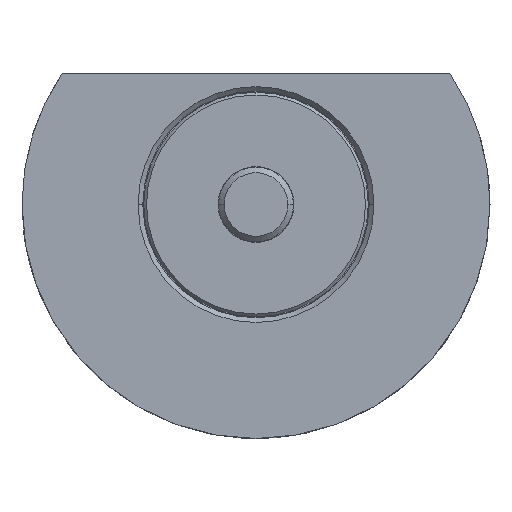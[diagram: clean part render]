
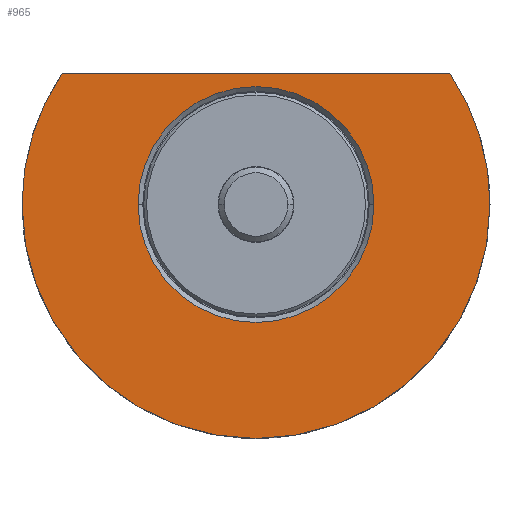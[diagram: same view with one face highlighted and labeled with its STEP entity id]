
A CAD part, front view. The second image highlights one B-rep face of the part: STEP entity #965.
In plain terms, the highlighted planar face has unit normal (0, -1, 0).
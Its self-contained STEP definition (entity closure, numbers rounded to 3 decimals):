
#11 = EDGE_CURVE ( 'NONE', #1319, #1957, #1905, .T. ) ;
#12 = VERTEX_POINT ( 'NONE', #2212 ) ;
#108 = DIRECTION ( 'NONE',  ( -1., 0., 0. ) ) ;
#114 = CARTESIAN_POINT ( 'NONE',  ( 20.712, -12., 14. ) ) ;
#157 = VERTEX_POINT ( 'NONE', #114 ) ;
#249 = CARTESIAN_POINT ( 'NONE',  ( 0., -12., 0. ) ) ;
#446 = DIRECTION ( 'NONE',  ( 0., -1., 0. ) ) ;
#493 = FACE_OUTER_BOUND ( 'NONE', #1355, .T. ) ;
#524 = DIRECTION ( 'NONE',  ( -1., 0., 0. ) ) ;
#645 = CARTESIAN_POINT ( 'NONE',  ( 0., -12., 0. ) ) ;
#669 = AXIS2_PLACEMENT_3D ( 'NONE', #249, #1426, #1668 ) ;
#689 = AXIS2_PLACEMENT_3D ( 'NONE', #2466, #1492, #696 ) ;
#696 = DIRECTION ( 'NONE',  ( -1., 0., 0. ) ) ;
#742 = EDGE_CURVE ( 'NONE', #2152, #898, #1049, .T. ) ;
#791 = ORIENTED_EDGE ( 'NONE', *, *, #742, .T. ) ;
#830 = CARTESIAN_POINT ( 'NONE',  ( -12.6, -12., 0. ) ) ;
#842 = DIRECTION ( 'NONE',  ( -1., 0., 0. ) ) ;
#847 = AXIS2_PLACEMENT_3D ( 'NONE', #645, #2420, #1003 ) ;
#855 = CARTESIAN_POINT ( 'NONE',  ( 0., -12., 0. ) ) ;
#879 = EDGE_CURVE ( 'NONE', #898, #2152, #1569, .T. ) ;
#882 = FACE_BOUND ( 'NONE', #2252, .T. ) ;
#898 = VERTEX_POINT ( 'NONE', #2427 ) ;
#965 = ADVANCED_FACE ( 'NONE', ( #882, #493 ), #2008, .T. ) ;
#999 = ORIENTED_EDGE ( 'NONE', *, *, #1657, .F. ) ;
#1003 = DIRECTION ( 'NONE',  ( -1., 0., 0. ) ) ;
#1018 = ORIENTED_EDGE ( 'NONE', *, *, #1835, .T. ) ;
#1049 = CIRCLE ( 'NONE', #1955, 12.6 ) ;
#1246 = AXIS2_PLACEMENT_3D ( 'NONE', #855, #1646, #842 ) ;
#1319 = VERTEX_POINT ( 'NONE', #2499 ) ;
#1355 = EDGE_LOOP ( 'NONE', ( #1932, #1018, #999, #2545 ) ) ;
#1426 = DIRECTION ( 'NONE',  ( 0., 1., 0. ) ) ;
#1431 = CARTESIAN_POINT ( 'NONE',  ( 12.6, -12., 0. ) ) ;
#1462 = ORIENTED_EDGE ( 'NONE', *, *, #879, .T. ) ;
#1492 = DIRECTION ( 'NONE',  ( 0., 1., 0. ) ) ;
#1522 = CARTESIAN_POINT ( 'NONE',  ( -25., -12., 0. ) ) ;
#1569 = CIRCLE ( 'NONE', #669, 12.6 ) ;
#1646 = DIRECTION ( 'NONE',  ( 0., 1., 0. ) ) ;
#1657 = EDGE_CURVE ( 'NONE', #1957, #12, #1877, .T. ) ;
#1668 = DIRECTION ( 'NONE',  ( -1., 0., 0. ) ) ;
#1674 = LINE ( 'NONE', #2455, #2289 ) ;
#1695 = AXIS2_PLACEMENT_3D ( 'NONE', #830, #446, #2106 ) ;
#1835 = EDGE_CURVE ( 'NONE', #157, #12, #1674, .T. ) ;
#1859 = EDGE_CURVE ( 'NONE', #157, #1319, #2003, .T. ) ;
#1877 = CIRCLE ( 'NONE', #847, 25. ) ;
#1905 = CIRCLE ( 'NONE', #1246, 25. ) ;
#1932 = ORIENTED_EDGE ( 'NONE', *, *, #1859, .F. ) ;
#1955 = AXIS2_PLACEMENT_3D ( 'NONE', #2290, #2049, #524 ) ;
#1957 = VERTEX_POINT ( 'NONE', #1522 ) ;
#2003 = CIRCLE ( 'NONE', #689, 25. ) ;
#2008 = PLANE ( 'NONE',  #1695 ) ;
#2049 = DIRECTION ( 'NONE',  ( 0., 1., 0. ) ) ;
#2106 = DIRECTION ( 'NONE',  ( 1., 0., 0. ) ) ;
#2152 = VERTEX_POINT ( 'NONE', #1431 ) ;
#2212 = CARTESIAN_POINT ( 'NONE',  ( -20.712, -12., 14. ) ) ;
#2252 = EDGE_LOOP ( 'NONE', ( #791, #1462 ) ) ;
#2289 = VECTOR ( 'NONE', #108, 1000. ) ;
#2290 = CARTESIAN_POINT ( 'NONE',  ( 0., -12., 0. ) ) ;
#2420 = DIRECTION ( 'NONE',  ( 0., 1., 0. ) ) ;
#2427 = CARTESIAN_POINT ( 'NONE',  ( -12.6, -12., 0. ) ) ;
#2455 = CARTESIAN_POINT ( 'NONE',  ( -12.6, -12., 14. ) ) ;
#2466 = CARTESIAN_POINT ( 'NONE',  ( 0., -12., 0. ) ) ;
#2499 = CARTESIAN_POINT ( 'NONE',  ( 25., -12., 0. ) ) ;
#2545 = ORIENTED_EDGE ( 'NONE', *, *, #11, .F. ) ;
